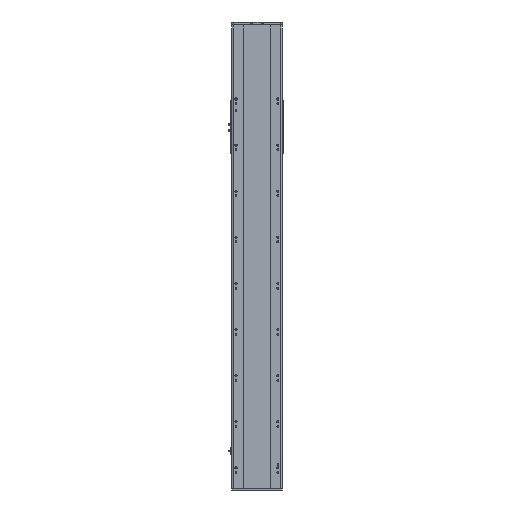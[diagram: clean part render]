
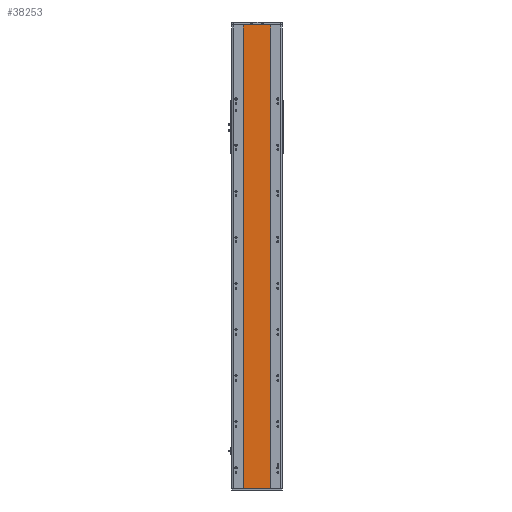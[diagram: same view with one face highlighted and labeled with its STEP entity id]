
A CAD part, front view. The second image highlights one B-rep face of the part: STEP entity #38253.
In plain terms, the highlighted planar face has unit normal (0, -1, 0).
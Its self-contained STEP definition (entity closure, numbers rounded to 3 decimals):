
#1555 = FACE_OUTER_BOUND ( 'NONE', #2622, .T. ) ;
#2438 = VECTOR ( 'NONE', #31498, 1000. ) ;
#2622 = EDGE_LOOP ( 'NONE', ( #33908, #13908, #35337, #35727 ) ) ;
#2876 = VECTOR ( 'NONE', #39251, 1000. ) ;
#3557 = DIRECTION ( 'NONE',  ( 0., 0., -1. ) ) ;
#4835 = CARTESIAN_POINT ( 'NONE',  ( -59., 1., -1005.5 ) ) ;
#4951 = LINE ( 'NONE', #31108, #30903 ) ;
#6342 = EDGE_CURVE ( 'NONE', #23036, #10008, #16897, .T. ) ;
#9261 = AXIS2_PLACEMENT_3D ( 'NONE', #16983, #16725, #32316 ) ;
#10008 = VERTEX_POINT ( 'NONE', #4835 ) ;
#11687 = CARTESIAN_POINT ( 'NONE',  ( 59., 1., -1005.5 ) ) ;
#11873 = VERTEX_POINT ( 'NONE', #11687 ) ;
#12598 = VECTOR ( 'NONE', #22135, 1000. ) ;
#12731 = CARTESIAN_POINT ( 'NONE',  ( -59., 1., 1005.5 ) ) ;
#13069 = VERTEX_POINT ( 'NONE', #17590 ) ;
#13908 = ORIENTED_EDGE ( 'NONE', *, *, #38112, .F. ) ;
#14050 = PLANE ( 'NONE',  #9261 ) ;
#16725 = DIRECTION ( 'NONE',  ( 0., 1., 0. ) ) ;
#16897 = LINE ( 'NONE', #18924, #2438 ) ;
#16983 = CARTESIAN_POINT ( 'NONE',  ( -59., 1., 1005.5 ) ) ;
#17590 = CARTESIAN_POINT ( 'NONE',  ( 59., 1., 1005.5 ) ) ;
#17876 = LINE ( 'NONE', #12731, #12598 ) ;
#18924 = CARTESIAN_POINT ( 'NONE',  ( -59., 1., 1005.5 ) ) ;
#22135 = DIRECTION ( 'NONE',  ( 1., 0., 0. ) ) ;
#22352 = CARTESIAN_POINT ( 'NONE',  ( -59., 1., 1005.5 ) ) ;
#23036 = VERTEX_POINT ( 'NONE', #22352 ) ;
#30903 = VECTOR ( 'NONE', #3557, 1000. ) ;
#31108 = CARTESIAN_POINT ( 'NONE',  ( 59., 1., 1005.5 ) ) ;
#31498 = DIRECTION ( 'NONE',  ( 0., 0., -1. ) ) ;
#32316 = DIRECTION ( 'NONE',  ( -1., 0., 0. ) ) ;
#33358 = CARTESIAN_POINT ( 'NONE',  ( -59., 1., -1005.5 ) ) ;
#33525 = EDGE_CURVE ( 'NONE', #23036, #13069, #17876, .T. ) ;
#33908 = ORIENTED_EDGE ( 'NONE', *, *, #34470, .T. ) ;
#34470 = EDGE_CURVE ( 'NONE', #10008, #11873, #34630, .T. ) ;
#34630 = LINE ( 'NONE', #33358, #2876 ) ;
#35337 = ORIENTED_EDGE ( 'NONE', *, *, #33525, .F. ) ;
#35727 = ORIENTED_EDGE ( 'NONE', *, *, #6342, .T. ) ;
#38112 = EDGE_CURVE ( 'NONE', #13069, #11873, #4951, .T. ) ;
#38253 = ADVANCED_FACE ( 'NONE', ( #1555 ), #14050, .F. ) ;
#39251 = DIRECTION ( 'NONE',  ( 1., 0., 0. ) ) ;
